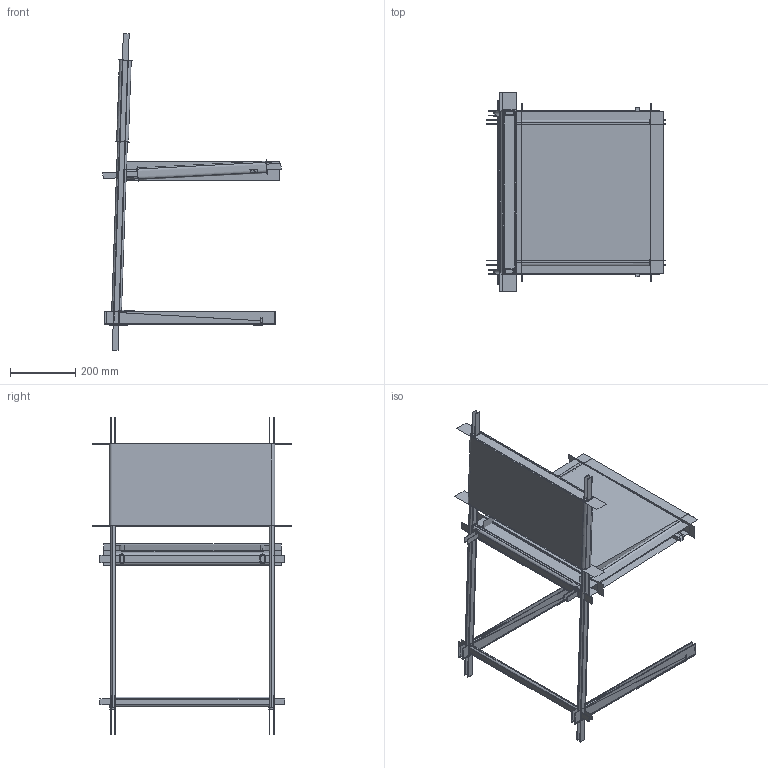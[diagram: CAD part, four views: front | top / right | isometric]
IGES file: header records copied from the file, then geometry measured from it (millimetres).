
Global section: file name: C:\Users\utente\Desktop\3d sito\MO\MORITZ.igs; native system: Rhinoceros ( Mar  9 2011 ); preprocessor: Trout Lake IGES 012 Mar  9 2011; date: 170531.085224; units: millimetre
Bounding box: 545.12 x 607.2 x 968.12 mm (x, y, z)
Surface area: 2841126.7 mm2 (no closed solid volume)
Topology: 0 solids, 0 shells, 298 faces, 1240 edges, 1264 vertices
Faces by surface type: bspline 298
